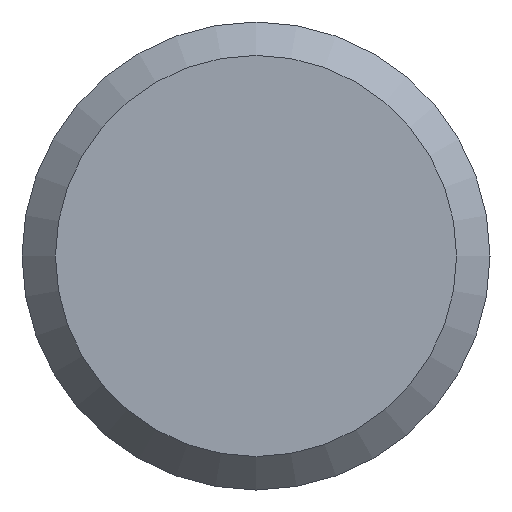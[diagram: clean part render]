
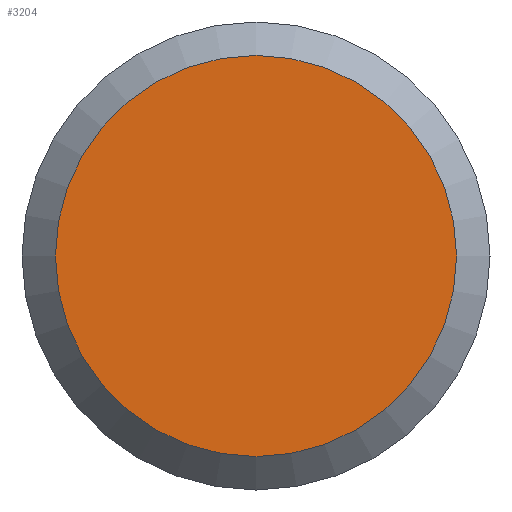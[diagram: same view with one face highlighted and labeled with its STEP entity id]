
A CAD part, left-side view. The second image highlights one B-rep face of the part: STEP entity #3204.
In plain terms, the highlighted planar face has unit normal (-1, 0, 0).
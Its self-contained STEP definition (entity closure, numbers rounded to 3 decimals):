
#1157=PLANE('',#2954);
#1207=ORIENTED_EDGE('',*,*,#1633,.F.);
#1417=CIRCLE('',#2953,6.);
#1525=VERTEX_POINT('',#2628);
#1633=EDGE_CURVE('',#1525,#1525,#1417,.T.);
#1747=EDGE_LOOP('',(#1207));
#1963=FACE_BOUND('',#1747,.T.);
#2190=DIRECTION('',(1.,0.,0.));
#2191=DIRECTION('',(0.,-6.,0.));
#2192=DIRECTION('',(-1.,0.,0.));
#2193=DIRECTION('',(0.,1.,0.));
#2628=CARTESIAN_POINT('',(57.248,283.796,0.));
#2629=CARTESIAN_POINT('',(57.248,289.796,0.));
#2630=CARTESIAN_POINT('',(57.248,289.796,0.));
#2953=AXIS2_PLACEMENT_3D('',#2629,#2190,#2191);
#2954=AXIS2_PLACEMENT_3D('',#2630,#2192,#2193);
#3204=ADVANCED_FACE('',(#1963),#1157,.T.);
